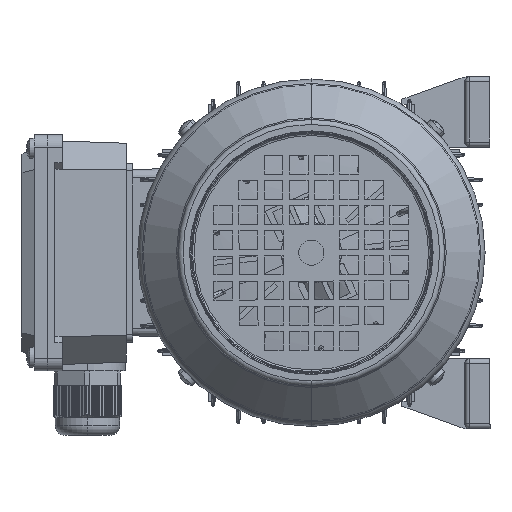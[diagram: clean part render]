
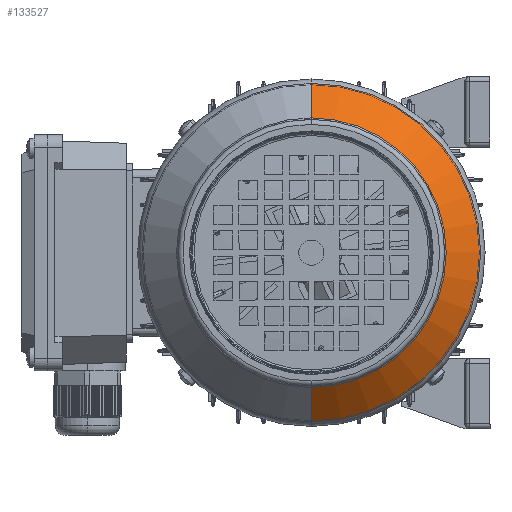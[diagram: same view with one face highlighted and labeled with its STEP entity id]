
A CAD part, left-side view. The second image highlights one B-rep face of the part: STEP entity #133527.
In plain terms, the highlighted conical face has half-angle 45 degrees and reference radius 53.586 mm.
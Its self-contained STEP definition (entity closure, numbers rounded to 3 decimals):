
#1706 = DIRECTION ( 'NONE',  ( 0., 0., 1. ) ) ;
#2194 = LINE ( 'NONE', #123811, #59598 ) ;
#6276 = ORIENTED_EDGE ( 'NONE', *, *, #115584, .F. ) ;
#15638 = DIRECTION ( 'NONE',  ( -1., 0., 0. ) ) ;
#25449 = ORIENTED_EDGE ( 'NONE', *, *, #27465, .F. ) ;
#27465 = EDGE_CURVE ( 'NONE', #94165, #44510, #2194, .T. ) ;
#27879 = CARTESIAN_POINT ( 'NONE',  ( 110.707, 0., -67.293 ) ) ;
#32349 = ORIENTED_EDGE ( 'NONE', *, *, #116803, .T. ) ;
#34980 = CARTESIAN_POINT ( 'NONE',  ( 110.707, 0., 67.293 ) ) ;
#38162 = DIRECTION ( 'NONE',  ( -0.707, 0., 0.707 ) ) ;
#43343 = CARTESIAN_POINT ( 'NONE',  ( 110.707, 0., 0. ) ) ;
#44510 = VERTEX_POINT ( 'NONE', #27879 ) ;
#50640 = AXIS2_PLACEMENT_3D ( 'NONE', #43343, #15638, #1706 ) ;
#51999 = CARTESIAN_POINT ( 'NONE',  ( 124.414, 0., 53.586 ) ) ;
#53012 = CARTESIAN_POINT ( 'NONE',  ( 124.414, 0., -53.586 ) ) ;
#59598 = VECTOR ( 'NONE', #109945, 1000. ) ;
#61511 = DIRECTION ( 'NONE',  ( 0., 0., 1. ) ) ;
#65886 = LINE ( 'NONE', #51999, #118069 ) ;
#66603 = EDGE_CURVE ( 'NONE', #94165, #133657, #94935, .T. ) ;
#75365 = DIRECTION ( 'NONE',  ( -1., 0., 0. ) ) ;
#79346 = CIRCLE ( 'NONE', #50640, 67.293 ) ;
#88309 = DIRECTION ( 'NONE',  ( 0., 0., 1. ) ) ;
#89251 = CARTESIAN_POINT ( 'NONE',  ( 124.414, 0., 0. ) ) ;
#91861 = EDGE_LOOP ( 'NONE', ( #25449, #114943, #32349, #6276 ) ) ;
#92845 = CONICAL_SURFACE ( 'NONE', #130652, 53.586, 0.785 ) ;
#94165 = VERTEX_POINT ( 'NONE', #53012 ) ;
#94935 = CIRCLE ( 'NONE', #125811, 53.586 ) ;
#94966 = VERTEX_POINT ( 'NONE', #34980 ) ;
#102173 = DIRECTION ( 'NONE',  ( -1., 0., 0. ) ) ;
#109664 = FACE_OUTER_BOUND ( 'NONE', #91861, .T. ) ;
#109945 = DIRECTION ( 'NONE',  ( -0.707, 0., -0.707 ) ) ;
#114943 = ORIENTED_EDGE ( 'NONE', *, *, #66603, .T. ) ;
#115584 = EDGE_CURVE ( 'NONE', #44510, #94966, #79346, .T. ) ;
#116058 = CARTESIAN_POINT ( 'NONE',  ( 124.414, 0., 0. ) ) ;
#116803 = EDGE_CURVE ( 'NONE', #133657, #94966, #65886, .T. ) ;
#118069 = VECTOR ( 'NONE', #38162, 1000. ) ;
#123811 = CARTESIAN_POINT ( 'NONE',  ( 124.414, 0., -53.586 ) ) ;
#125811 = AXIS2_PLACEMENT_3D ( 'NONE', #89251, #75365, #61511 ) ;
#130652 = AXIS2_PLACEMENT_3D ( 'NONE', #116058, #102173, #88309 ) ;
#133527 = ADVANCED_FACE ( 'NONE', ( #109664 ), #92845, .T. ) ;
#133657 = VERTEX_POINT ( 'NONE', #134784 ) ;
#134784 = CARTESIAN_POINT ( 'NONE',  ( 124.414, 0., 53.586 ) ) ;
